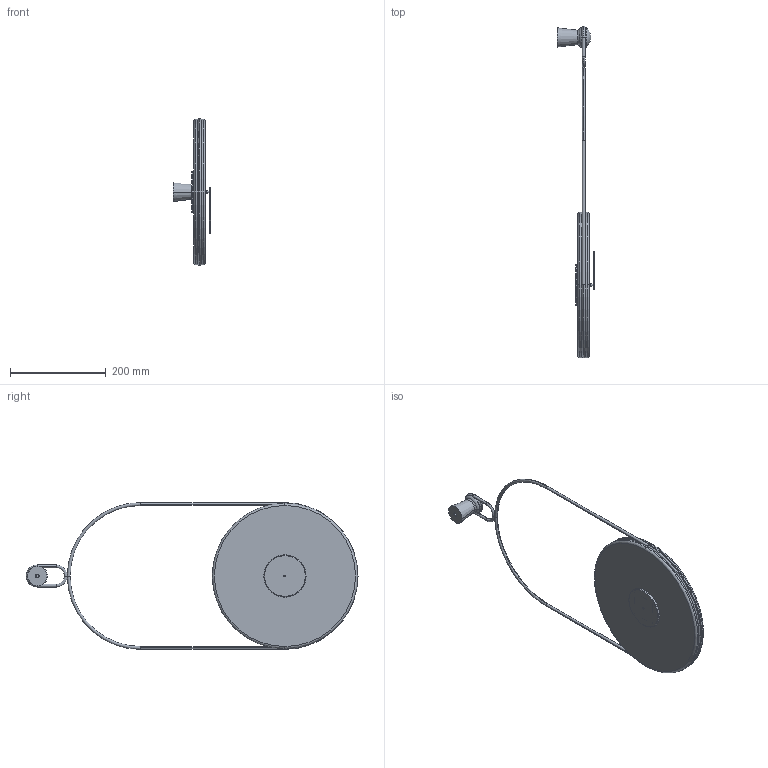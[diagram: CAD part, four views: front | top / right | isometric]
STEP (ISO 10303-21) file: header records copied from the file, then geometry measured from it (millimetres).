
FILE_DESCRIPTION (( 'STEP AP214' ), '1' );
FILE_NAME ('ESLABÓN_NOGAL.STEP', '2019-04-08T10:21:50', ( '' ), ( '' ), 'SwSTEP 2.0', 'SolidWorks 2016', '' );
FILE_SCHEMA (( 'AUTOMOTIVE_DESIGN' ));
Length unit declared in the file: millimetre
Products named in the file (13): Pieza_caja_inferior; Arandela_2; ANCLAJE_TORNEADO_PENDIENTE; Pieza2; Mecanismo; ARCO_VARILLA_ÓVALO_PENDIENTE; Prueba_aguja_horaria_latón_oval_2; AGUJA_HORARIA_LÁTON_L_oval; PLATO_NOGAL_MARCO; Tuerca; Pasante; Prueba_aguja_minutera_nogal_120mm; ESLABÓN_NOGAL
Assembly tree (12 placements, depth 3):
  ESLABÓN_NOGAL
    PLATO_NOGAL_MARCO
    AGUJA_HORARIA_LÁTON_L_oval
      Prueba_aguja_horaria_latón_oval_2
      Arandela_2
      Pasante
      Tuerca
    Mecanismo
    Pieza2
    ARCO_VARILLA_ÓVALO_PENDIENTE
    ANCLAJE_TORNEADO_PENDIENTE
    Pieza_caja_inferior
    Prueba_aguja_minutera_nogal_120mm
Bounding box: 78.23 x 692 x 306 mm (x, y, z)
Volume: 1465944.7 mm3; surface area: 258134.2 mm2
Topology: 12 solids, 12 shells, 205 faces, 442 edges, 271 vertices
Faces by surface type: cylinder 78, torus 62, plane 53, cone 10, sphere 2
Entity records: 6260 total; most frequent: DIRECTION 1178, CARTESIAN_POINT 934, ORIENTED_EDGE 884, AXIS2_PLACEMENT_3D 515, EDGE_CURVE 442, CIRCLE 294, VERTEX_POINT 271, EDGE_LOOP 237
